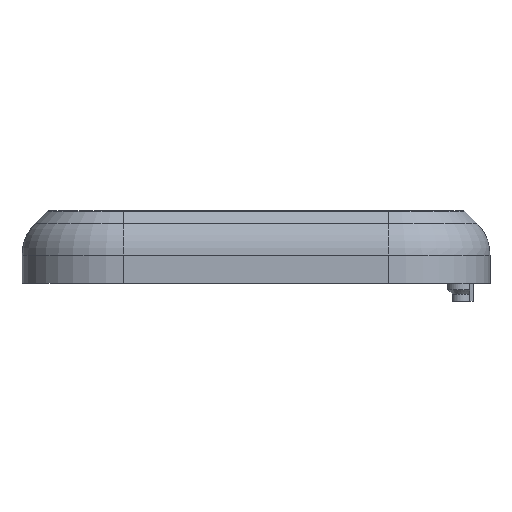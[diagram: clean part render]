
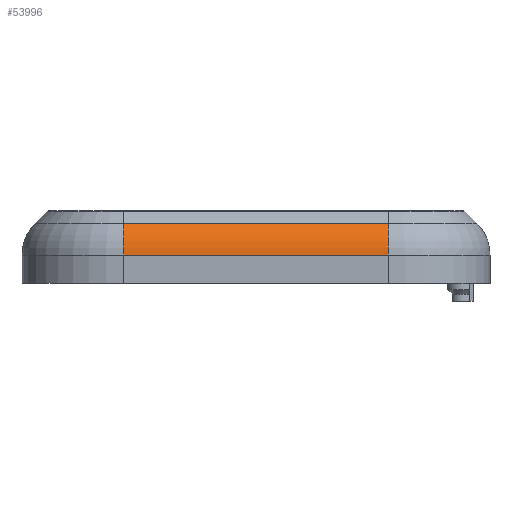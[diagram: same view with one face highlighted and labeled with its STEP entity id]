
A CAD part, front view. The second image highlights one B-rep face of the part: STEP entity #53996.
In plain terms, the highlighted cylindrical face has radius 7 mm (diameter 14 mm), a partial arc.
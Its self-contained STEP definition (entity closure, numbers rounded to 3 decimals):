
#11318 = PLANE('',#11319);
#11319 = AXIS2_PLACEMENT_3D('',#11320,#11321,#11322);
#11320 = CARTESIAN_POINT('',(36.,2.267,18.316));
#11321 = DIRECTION('',(0.,-0.707,0.707));
#11322 = DIRECTION('',(0.,-0.707,-0.707));
#32329 = VERTEX_POINT('',#32330);
#32330 = CARTESIAN_POINT('',(15.25,1.3,17.35));
#32366 = TOROIDAL_SURFACE('',#32367,9.,7.);
#32367 = AXIS2_PLACEMENT_3D('',#32368,#32369,#32370);
#32368 = CARTESIAN_POINT('',(15.25,15.25,12.4));
#32369 = DIRECTION('',(0.,-0.,1.));
#32370 = DIRECTION('',(0.,-1.,0.));
#32384 = EDGE_CURVE('',#32329,#32385,#32387,.T.);
#32385 = VERTEX_POINT('',#32386);
#32386 = CARTESIAN_POINT('',(56.75,1.3,17.35));
#32387 = SURFACE_CURVE('',#32388,(#32392,#32399),.PCURVE_S1.);
#32388 = LINE('',#32389,#32390);
#32389 = CARTESIAN_POINT('',(15.25,1.3,17.35));
#32390 = VECTOR('',#32391,1.);
#32391 = DIRECTION('',(1.,0.,0.));
#32392 = PCURVE('',#11318,#32393);
#32393 = DEFINITIONAL_REPRESENTATION('',(#32394),#32398);
#32394 = LINE('',#32395,#32396);
#32395 = CARTESIAN_POINT('',(1.367,-20.75));
#32396 = VECTOR('',#32397,1.);
#32397 = DIRECTION('',(0.,1.));
#32398 = ( GEOMETRIC_REPRESENTATION_CONTEXT(2) 
PARAMETRIC_REPRESENTATION_CONTEXT() REPRESENTATION_CONTEXT('2D SPACE',''
  ) );
#32399 = PCURVE('',#32400,#32405);
#32400 = CYLINDRICAL_SURFACE('',#32401,7.);
#32401 = AXIS2_PLACEMENT_3D('',#32402,#32403,#32404);
#32402 = CARTESIAN_POINT('',(56.75,6.25,12.4));
#32403 = DIRECTION('',(-1.,0.,0.));
#32404 = DIRECTION('',(0.,-1.,0.));
#32405 = DEFINITIONAL_REPRESENTATION('',(#32406),#32410);
#32406 = LINE('',#32407,#32408);
#32407 = CARTESIAN_POINT('',(0.785,41.5));
#32408 = VECTOR('',#32409,1.);
#32409 = DIRECTION('',(0.,-1.));
#32410 = ( GEOMETRIC_REPRESENTATION_CONTEXT(2) 
PARAMETRIC_REPRESENTATION_CONTEXT() REPRESENTATION_CONTEXT('2D SPACE',''
  ) );
#32504 = TOROIDAL_SURFACE('',#32505,9.,7.);
#32505 = AXIS2_PLACEMENT_3D('',#32506,#32507,#32508);
#32506 = CARTESIAN_POINT('',(56.75,15.25,12.4));
#32507 = DIRECTION('',(0.,-0.,1.));
#32508 = DIRECTION('',(1.,0.,0.));
#53944 = EDGE_CURVE('',#53945,#32329,#53947,.T.);
#53945 = VERTEX_POINT('',#53946);
#53946 = CARTESIAN_POINT('',(15.25,-0.75,12.4));
#53947 = SURFACE_CURVE('',#53948,(#53953,#53960),.PCURVE_S1.);
#53948 = CIRCLE('',#53949,7.);
#53949 = AXIS2_PLACEMENT_3D('',#53950,#53951,#53952);
#53950 = CARTESIAN_POINT('',(15.25,6.25,12.4));
#53951 = DIRECTION('',(-1.,0.,0.));
#53952 = DIRECTION('',(0.,-1.,0.));
#53953 = PCURVE('',#32366,#53954);
#53954 = DEFINITIONAL_REPRESENTATION('',(#53955),#53959);
#53955 = LINE('',#53956,#53957);
#53956 = CARTESIAN_POINT('',(-0.,0.));
#53957 = VECTOR('',#53958,1.);
#53958 = DIRECTION('',(-0.,1.));
#53959 = ( GEOMETRIC_REPRESENTATION_CONTEXT(2) 
PARAMETRIC_REPRESENTATION_CONTEXT() REPRESENTATION_CONTEXT('2D SPACE',''
  ) );
#53960 = PCURVE('',#32400,#53961);
#53961 = DEFINITIONAL_REPRESENTATION('',(#53962),#53966);
#53962 = LINE('',#53963,#53964);
#53963 = CARTESIAN_POINT('',(0.,41.5));
#53964 = VECTOR('',#53965,1.);
#53965 = DIRECTION('',(1.,0.));
#53966 = ( GEOMETRIC_REPRESENTATION_CONTEXT(2) 
PARAMETRIC_REPRESENTATION_CONTEXT() REPRESENTATION_CONTEXT('2D SPACE',''
  ) );
#53996 = ADVANCED_FACE('',(#53997),#32400,.T.);
#53997 = FACE_BOUND('',#53998,.T.);
#53998 = EDGE_LOOP('',(#53999,#54000,#54001,#54029));
#53999 = ORIENTED_EDGE('',*,*,#32384,.F.);
#54000 = ORIENTED_EDGE('',*,*,#53944,.F.);
#54001 = ORIENTED_EDGE('',*,*,#54002,.F.);
#54002 = EDGE_CURVE('',#54003,#53945,#54005,.T.);
#54003 = VERTEX_POINT('',#54004);
#54004 = CARTESIAN_POINT('',(56.75,-0.75,12.4));
#54005 = SURFACE_CURVE('',#54006,(#54010,#54017),.PCURVE_S1.);
#54006 = LINE('',#54007,#54008);
#54007 = CARTESIAN_POINT('',(56.75,-0.75,12.4));
#54008 = VECTOR('',#54009,1.);
#54009 = DIRECTION('',(-1.,0.,-0.));
#54010 = PCURVE('',#32400,#54011);
#54011 = DEFINITIONAL_REPRESENTATION('',(#54012),#54016);
#54012 = LINE('',#54013,#54014);
#54013 = CARTESIAN_POINT('',(0.,0.));
#54014 = VECTOR('',#54015,1.);
#54015 = DIRECTION('',(0.,1.));
#54016 = ( GEOMETRIC_REPRESENTATION_CONTEXT(2) 
PARAMETRIC_REPRESENTATION_CONTEXT() REPRESENTATION_CONTEXT('2D SPACE',''
  ) );
#54017 = PCURVE('',#54018,#54023);
#54018 = PLANE('',#54019);
#54019 = AXIS2_PLACEMENT_3D('',#54020,#54021,#54022);
#54020 = CARTESIAN_POINT('',(15.25,-0.75,19.4));
#54021 = DIRECTION('',(0.,-1.,0.));
#54022 = DIRECTION('',(0.,0.,-1.));
#54023 = DEFINITIONAL_REPRESENTATION('',(#54024),#54028);
#54024 = LINE('',#54025,#54026);
#54025 = CARTESIAN_POINT('',(7.,41.5));
#54026 = VECTOR('',#54027,1.);
#54027 = DIRECTION('',(0.,-1.));
#54028 = ( GEOMETRIC_REPRESENTATION_CONTEXT(2) 
PARAMETRIC_REPRESENTATION_CONTEXT() REPRESENTATION_CONTEXT('2D SPACE',''
  ) );
#54029 = ORIENTED_EDGE('',*,*,#54030,.T.);
#54030 = EDGE_CURVE('',#54003,#32385,#54031,.T.);
#54031 = SURFACE_CURVE('',#54032,(#54037,#54044),.PCURVE_S1.);
#54032 = CIRCLE('',#54033,7.);
#54033 = AXIS2_PLACEMENT_3D('',#54034,#54035,#54036);
#54034 = CARTESIAN_POINT('',(56.75,6.25,12.4));
#54035 = DIRECTION('',(-1.,0.,0.));
#54036 = DIRECTION('',(0.,-1.,0.));
#54037 = PCURVE('',#32400,#54038);
#54038 = DEFINITIONAL_REPRESENTATION('',(#54039),#54043);
#54039 = LINE('',#54040,#54041);
#54040 = CARTESIAN_POINT('',(0.,0.));
#54041 = VECTOR('',#54042,1.);
#54042 = DIRECTION('',(1.,0.));
#54043 = ( GEOMETRIC_REPRESENTATION_CONTEXT(2) 
PARAMETRIC_REPRESENTATION_CONTEXT() REPRESENTATION_CONTEXT('2D SPACE',''
  ) );
#54044 = PCURVE('',#32504,#54045);
#54045 = DEFINITIONAL_REPRESENTATION('',(#54046),#54050);
#54046 = LINE('',#54047,#54048);
#54047 = CARTESIAN_POINT('',(-1.571,0.));
#54048 = VECTOR('',#54049,1.);
#54049 = DIRECTION('',(-0.,1.));
#54050 = ( GEOMETRIC_REPRESENTATION_CONTEXT(2) 
PARAMETRIC_REPRESENTATION_CONTEXT() REPRESENTATION_CONTEXT('2D SPACE',''
  ) );
